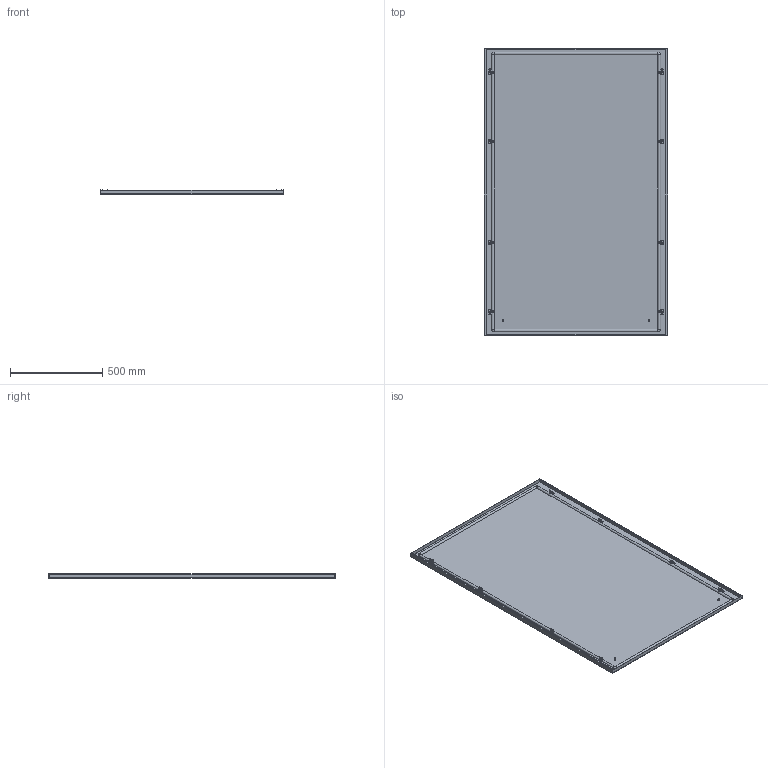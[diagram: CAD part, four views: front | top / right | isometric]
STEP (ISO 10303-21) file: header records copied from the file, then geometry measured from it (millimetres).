
FILE_DESCRIPTION(('Open CASCADE Model'),'2;1');
FILE_NAME('Open CASCADE Shape Model','2025-02-07T16:30:53',('Author'),( 'Open CASCADE'),'Open CASCADE STEP processor 7.8','Open CASCADE 7.8' ,'Unknown');
FILE_SCHEMA(('AUTOMOTIVE_DESIGN { 1 0 10303 214 1 1 1 1 }'));
Length unit declared in the file: millimetre
Products named in the file (10): Compound1; Compound2; Compound3; Solid1; Solid2; Solid3; Solid4; Solid5; Solid6; Solid7
Assembly tree (40 placements, depth 4):
  Compound1
    Compound2
      Compound3
        Solid1
        Solid2  x4
      Solid3
    Solid4  x8
    Solid5  x8
    Solid6  x8
    Solid7  x8
Bounding box: 994 x 1555 x 23.8 mm (x, y, z)
Volume: 2954098.2 mm3; surface area: 3569862.1 mm2
Topology: 38 solids, 38 shells, 1655 faces, 4040 edges, 2460 vertices
Faces by surface type: plane 1043, cone 308, cylinder 268, torus 25, bspline 8, revolution 3
Full cylindrical faces by diameter (mm): 5 x16, 6 x132, 7.5 x4, 8 x16, 10 x8, 11.57 x8
Entity records: 7823 total; most frequent: CARTESIAN_POINT 1513, DIRECTION 1262, ORIENTED_EDGE 1244, EDGE_CURVE 622, AXIS2_PLACEMENT_3D 425, LINE 409, VECTOR 409, VERTEX_POINT 387
